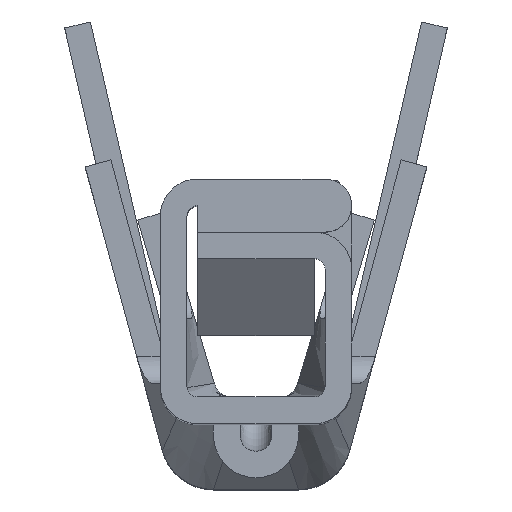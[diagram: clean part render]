
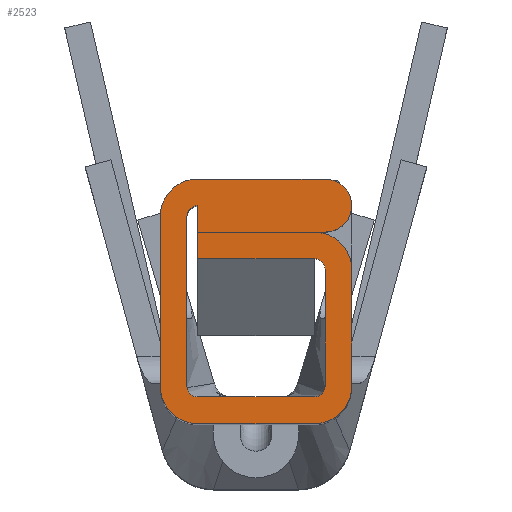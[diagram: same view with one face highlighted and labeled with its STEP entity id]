
A CAD part, top view. The second image highlights one B-rep face of the part: STEP entity #2523.
In plain terms, the highlighted planar face has unit normal (0, 0, 1).
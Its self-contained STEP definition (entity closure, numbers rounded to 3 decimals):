
#72=DIRECTION('',(1.,0.,0.));
#73=VECTOR('',#72,1.2);
#74=CARTESIAN_POINT('',(-0.55,2.3,0.));
#75=LINE('',#74,#73);
#76=CARTESIAN_POINT('',(0.65,2.05,0.));
#77=DIRECTION('',(0.,0.,1.));
#78=DIRECTION('',(0.,-1.,0.));
#79=AXIS2_PLACEMENT_3D('',#76,#77,#78);
#81=DIRECTION('',(1.,0.,0.));
#82=VECTOR('',#81,1.2);
#83=CARTESIAN_POINT('',(-0.55,1.801,0.));
#84=LINE('',#83,#82);
#85=DIRECTION('',(0.,-1.,0.));
#86=VECTOR('',#85,0.249);
#87=CARTESIAN_POINT('',(-0.55,2.05,0.));
#88=LINE('',#87,#86);
#89=CARTESIAN_POINT('',(-0.55,1.95,0.));
#90=DIRECTION('',(0.,0.,-1.));
#91=DIRECTION('',(-1.,0.,0.));
#92=AXIS2_PLACEMENT_3D('',#89,#90,#91);
#94=DIRECTION('',(0.,1.,0.));
#95=VECTOR('',#94,1.6);
#96=CARTESIAN_POINT('',(-0.65,0.35,0.));
#97=LINE('',#96,#95);
#98=CARTESIAN_POINT('',(-0.55,0.35,0.));
#99=DIRECTION('',(0.,0.,-1.));
#100=DIRECTION('',(0.,-1.,0.));
#101=AXIS2_PLACEMENT_3D('',#98,#99,#100);
#103=DIRECTION('',(-1.,0.,0.));
#104=VECTOR('',#103,1.1);
#105=CARTESIAN_POINT('',(0.55,0.25,0.));
#106=LINE('',#105,#104);
#107=CARTESIAN_POINT('',(0.55,0.35,0.));
#108=DIRECTION('',(0.,0.,-1.));
#109=DIRECTION('',(1.,0.,0.));
#110=AXIS2_PLACEMENT_3D('',#107,#108,#109);
#112=DIRECTION('',(0.,-1.,0.));
#113=VECTOR('',#112,1.1);
#114=CARTESIAN_POINT('',(0.65,1.45,0.));
#115=LINE('',#114,#113);
#116=CARTESIAN_POINT('',(0.55,1.45,0.));
#117=DIRECTION('',(0.,0.,-1.));
#118=DIRECTION('',(0.,1.,0.));
#119=AXIS2_PLACEMENT_3D('',#116,#117,#118);
#121=DIRECTION('',(1.,0.,0.));
#122=VECTOR('',#121,1.1);
#123=CARTESIAN_POINT('',(-0.55,1.55,0.));
#124=LINE('',#123,#122);
#125=DIRECTION('',(0.,-1.,0.));
#126=VECTOR('',#125,0.25);
#127=CARTESIAN_POINT('',(-0.55,1.8,0.));
#128=LINE('',#127,#126);
#129=DIRECTION('',(-1.,0.,0.));
#130=VECTOR('',#129,1.1);
#131=CARTESIAN_POINT('',(0.55,1.8,0.));
#132=LINE('',#131,#130);
#133=CARTESIAN_POINT('',(0.55,1.45,0.));
#134=DIRECTION('',(0.,0.,-1.));
#135=DIRECTION('',(0.,1.,0.));
#136=AXIS2_PLACEMENT_3D('',#133,#134,#135);
#138=DIRECTION('',(0.,-1.,0.));
#139=VECTOR('',#138,1.1);
#140=CARTESIAN_POINT('',(0.9,1.45,0.));
#141=LINE('',#140,#139);
#142=CARTESIAN_POINT('',(0.55,0.35,0.));
#143=DIRECTION('',(0.,0.,-1.));
#144=DIRECTION('',(1.,0.,0.));
#145=AXIS2_PLACEMENT_3D('',#142,#143,#144);
#147=DIRECTION('',(-1.,0.,0.));
#148=VECTOR('',#147,1.1);
#149=CARTESIAN_POINT('',(0.55,0.,0.));
#150=LINE('',#149,#148);
#151=CARTESIAN_POINT('',(-0.55,0.35,0.));
#152=DIRECTION('',(0.,0.,-1.));
#153=DIRECTION('',(0.,-1.,0.));
#154=AXIS2_PLACEMENT_3D('',#151,#152,#153);
#156=DIRECTION('',(0.,1.,0.));
#157=VECTOR('',#156,1.6);
#158=CARTESIAN_POINT('',(-0.9,0.35,0.));
#159=LINE('',#158,#157);
#160=CARTESIAN_POINT('',(-0.55,1.95,0.));
#161=DIRECTION('',(0.,0.,1.));
#162=DIRECTION('',(0.,1.,0.));
#163=AXIS2_PLACEMENT_3D('',#160,#161,#162);
#2026=CARTESIAN_POINT('',(-0.9,0.35,0.));
#2027=CARTESIAN_POINT('',(-0.9,1.95,0.));
#2028=VERTEX_POINT('',#2026);
#2029=VERTEX_POINT('',#2027);
#2030=CARTESIAN_POINT('',(0.55,0.,0.));
#2031=CARTESIAN_POINT('',(-0.55,0.,0.));
#2032=VERTEX_POINT('',#2030);
#2033=VERTEX_POINT('',#2031);
#2034=CARTESIAN_POINT('',(0.9,1.45,0.));
#2035=CARTESIAN_POINT('',(0.9,0.35,0.));
#2036=VERTEX_POINT('',#2034);
#2037=VERTEX_POINT('',#2035);
#2038=CARTESIAN_POINT('',(-0.55,2.3,0.));
#2039=VERTEX_POINT('',#2038);
#2040=CARTESIAN_POINT('',(0.65,1.45,0.));
#2041=CARTESIAN_POINT('',(0.65,0.35,0.));
#2042=VERTEX_POINT('',#2040);
#2043=VERTEX_POINT('',#2041);
#2044=CARTESIAN_POINT('',(0.55,0.25,0.));
#2045=VERTEX_POINT('',#2044);
#2046=CARTESIAN_POINT('',(-0.55,0.25,0.));
#2047=VERTEX_POINT('',#2046);
#2048=CARTESIAN_POINT('',(-0.65,0.35,0.));
#2049=VERTEX_POINT('',#2048);
#2050=CARTESIAN_POINT('',(-0.65,1.95,0.));
#2051=VERTEX_POINT('',#2050);
#2201=CARTESIAN_POINT('',(-0.55,1.8,0.));
#2202=CARTESIAN_POINT('',(-0.55,1.55,0.));
#2203=VERTEX_POINT('',#2201);
#2204=VERTEX_POINT('',#2202);
#2205=CARTESIAN_POINT('',(0.55,1.8,0.));
#2206=VERTEX_POINT('',#2205);
#2207=CARTESIAN_POINT('',(0.55,1.55,0.));
#2208=VERTEX_POINT('',#2207);
#2209=CARTESIAN_POINT('',(-0.55,1.801,0.));
#2210=CARTESIAN_POINT('',(0.65,1.801,0.));
#2211=VERTEX_POINT('',#2209);
#2212=VERTEX_POINT('',#2210);
#2213=CARTESIAN_POINT('',(-0.55,2.05,0.));
#2214=VERTEX_POINT('',#2213);
#2404=CARTESIAN_POINT('',(0.65,2.3,0.));
#2405=VERTEX_POINT('',#2404);
#2474=CARTESIAN_POINT('',(0.,0.,0.));
#2475=DIRECTION('',(0.,0.,1.));
#2476=DIRECTION('',(1.,0.,0.));
#2477=AXIS2_PLACEMENT_3D('',#2474,#2475,#2476);
#2478=PLANE('',#2477);
#2480=ORIENTED_EDGE('',*,*,#2479,.T.);
#2482=ORIENTED_EDGE('',*,*,#2481,.F.);
#2484=ORIENTED_EDGE('',*,*,#2483,.F.);
#2486=ORIENTED_EDGE('',*,*,#2485,.F.);
#2488=ORIENTED_EDGE('',*,*,#2487,.F.);
#2490=ORIENTED_EDGE('',*,*,#2489,.F.);
#2492=ORIENTED_EDGE('',*,*,#2491,.F.);
#2494=ORIENTED_EDGE('',*,*,#2493,.F.);
#2496=ORIENTED_EDGE('',*,*,#2495,.F.);
#2498=ORIENTED_EDGE('',*,*,#2497,.F.);
#2500=ORIENTED_EDGE('',*,*,#2499,.F.);
#2502=ORIENTED_EDGE('',*,*,#2501,.F.);
#2504=ORIENTED_EDGE('',*,*,#2503,.F.);
#2506=ORIENTED_EDGE('',*,*,#2505,.F.);
#2508=ORIENTED_EDGE('',*,*,#2507,.T.);
#2510=ORIENTED_EDGE('',*,*,#2509,.T.);
#2512=ORIENTED_EDGE('',*,*,#2511,.T.);
#2514=ORIENTED_EDGE('',*,*,#2513,.T.);
#2516=ORIENTED_EDGE('',*,*,#2515,.T.);
#2518=ORIENTED_EDGE('',*,*,#2517,.T.);
#2520=ORIENTED_EDGE('',*,*,#2519,.F.);
#2521=EDGE_LOOP('',(#2480,#2482,#2484,#2486,#2488,#2490,#2492,#2494,#2496,#2498,
#2500,#2502,#2504,#2506,#2508,#2510,#2512,#2514,#2516,#2518,#2520));
#2522=FACE_OUTER_BOUND('',#2521,.F.);
#2523=ADVANCED_FACE('',(#2522),#2478,.T.);
#80=CIRCLE('',#79,0.249);
#93=CIRCLE('',#92,0.1);
#102=CIRCLE('',#101,0.1);
#111=CIRCLE('',#110,0.1);
#120=CIRCLE('',#119,0.1);
#137=CIRCLE('',#136,0.35);
#146=CIRCLE('',#145,0.35);
#155=CIRCLE('',#154,0.35);
#164=CIRCLE('',#163,0.35);
#2479=EDGE_CURVE('',#2039,#2405,#75,.T.);
#2481=EDGE_CURVE('',#2212,#2405,#80,.T.);
#2483=EDGE_CURVE('',#2211,#2212,#84,.T.);
#2485=EDGE_CURVE('',#2214,#2211,#88,.T.);
#2487=EDGE_CURVE('',#2051,#2214,#93,.T.);
#2489=EDGE_CURVE('',#2049,#2051,#97,.T.);
#2491=EDGE_CURVE('',#2047,#2049,#102,.T.);
#2493=EDGE_CURVE('',#2045,#2047,#106,.T.);
#2495=EDGE_CURVE('',#2043,#2045,#111,.T.);
#2497=EDGE_CURVE('',#2042,#2043,#115,.T.);
#2499=EDGE_CURVE('',#2208,#2042,#120,.T.);
#2501=EDGE_CURVE('',#2204,#2208,#124,.T.);
#2503=EDGE_CURVE('',#2203,#2204,#128,.T.);
#2505=EDGE_CURVE('',#2206,#2203,#132,.T.);
#2507=EDGE_CURVE('',#2206,#2036,#137,.T.);
#2509=EDGE_CURVE('',#2036,#2037,#141,.T.);
#2511=EDGE_CURVE('',#2037,#2032,#146,.T.);
#2513=EDGE_CURVE('',#2032,#2033,#150,.T.);
#2515=EDGE_CURVE('',#2033,#2028,#155,.T.);
#2517=EDGE_CURVE('',#2028,#2029,#159,.T.);
#2519=EDGE_CURVE('',#2039,#2029,#164,.T.);
